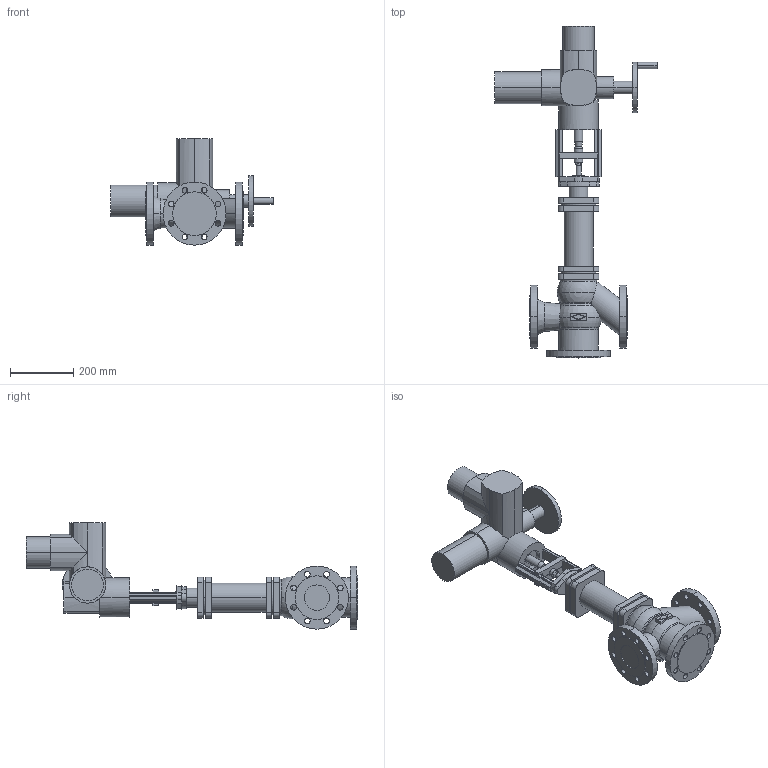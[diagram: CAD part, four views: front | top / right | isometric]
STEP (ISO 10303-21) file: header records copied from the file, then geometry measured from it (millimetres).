
FILE_DESCRIPTION(('OneSpaceDesigner STEP Export'),'2;1');
FILE_NAME('c000003209.stp','2007-01-25T12:00:39',(''),(''),'OneSpace Designer STEP processor for AP214 (Solid Model)','OneSpace Designer 14.00B 27-May-2006 (C) CoCreate Software GmbH','');
FILE_SCHEMA(('AUTOMOTIVE_DESIGN { 1 0 10303 214 1 1 1 1 }'));
Length unit declared in the file: millimetre
Products named in the file (2): 1; 2
Bounding box: 514 x 1051.7 x 337 mm (x, y, z)
Volume: 17294423.1 mm3; surface area: 977175 mm2
Topology: 2 solids, 2 shells, 357 faces, 933 edges, 599 vertices
Faces by surface type: cylinder 184, plane 151, torus 10, cone 8, sphere 4
Entity records: 10509 total; most frequent: CARTESIAN_POINT 2271, ORIENTED_EDGE 1858, DIRECTION 1528, EDGE_CURVE 929, VERTEX_POINT 599, AXIS2_PLACEMENT_3D 525, VECTOR 478, LINE 478
